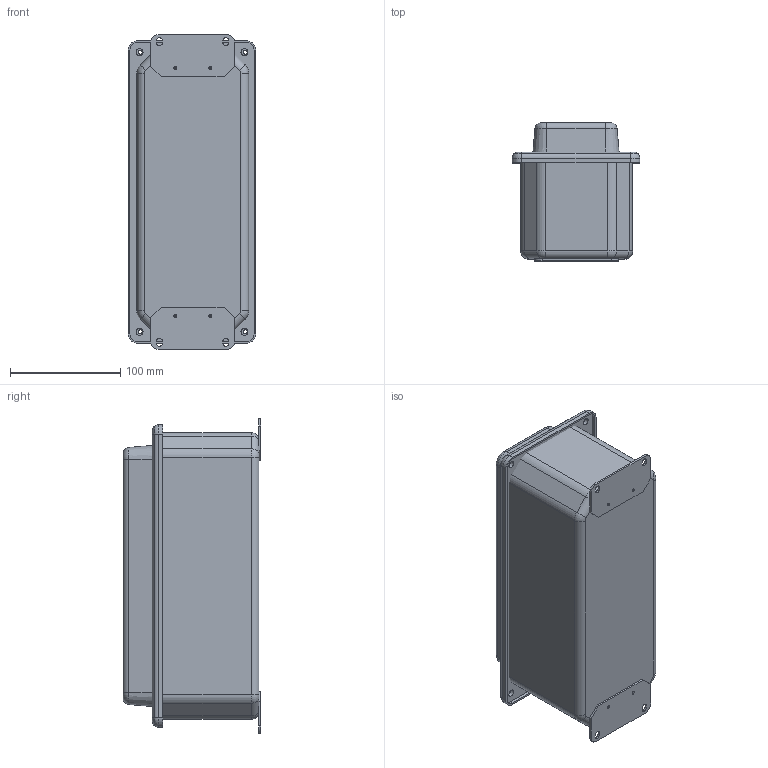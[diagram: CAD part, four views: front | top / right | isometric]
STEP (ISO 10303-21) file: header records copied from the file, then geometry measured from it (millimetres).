
FILE_DESCRIPTION (( 'STEP AP203' ), '1' );
FILE_NAME ('ed4pbxm.STEP', '2011-04-06T19:56:01', ( 'Hoffman User' ), ( 'Hoffman Enclosures' ), 'SwSTEP 2.0', 'SolidWorks 2009', '' );
FILE_SCHEMA (( 'CONFIG_CONTROL_DESIGN' ));
Length unit declared in the file: inch
Products named in the file (9): ed4pbxm; 89057446; 54383008; 54252007; 31194001_pre-weld; 89069113; 87573809; 99404181; 54386004
Assembly tree (9 placements, depth 3):
  ed4pbxm
    89057446
      54252007  x2
      31194001_pre-weld
      54383008
    89069113
      99404181
      87573809
      54386004
Bounding box: 115.87 x 125.27 x 285.75 mm (x, y, z)
Volume: 265274.4 mm3; surface area: 318275.7 mm2
Topology: 7 solids, 7 shells, 553 faces, 1387 edges, 873 vertices
Faces by surface type: plane 203, cylinder 178, torus 74, bspline 66, cone 24, sphere 8
Entity records: 16998 total; most frequent: CARTESIAN_POINT 4591, DIRECTION 2465, ORIENTED_EDGE 2334, EDGE_CURVE 1167, AXIS2_PLACEMENT_3D 911, VERTEX_POINT 727, VECTOR 643, LINE 643
